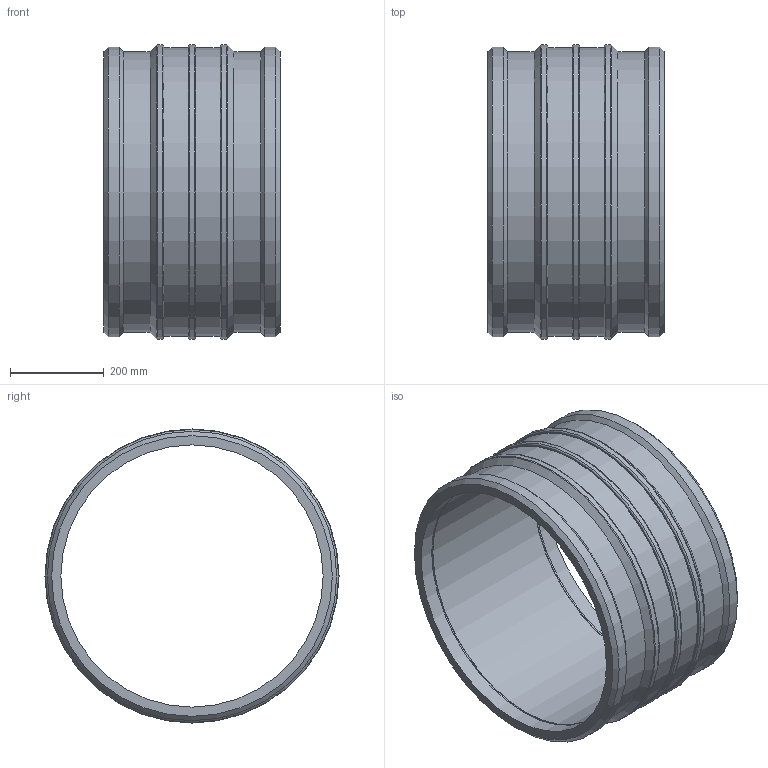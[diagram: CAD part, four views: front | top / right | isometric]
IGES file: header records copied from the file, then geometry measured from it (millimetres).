
Global section: file name: 460103560N.ipt; native system: Autodesk Inventor 2015; preprocessor: unknown; author: KIM; date: 20190124.125933; units: millimetre
Bounding box: 376 x 628 x 628 mm (x, y, z)
Volume: 17859551 mm3; surface area: 1549952.8 mm2
Topology: 1 solids, 1 shells, 48 faces, 106 edges, 70 vertices
Faces by surface type: cylinder 15, plane 14, revolution 13, cone 6
Full cylindrical faces by diameter (mm): 4 x2, 599.46 x2, 615.44 x2, 618 x2, 628 x3
